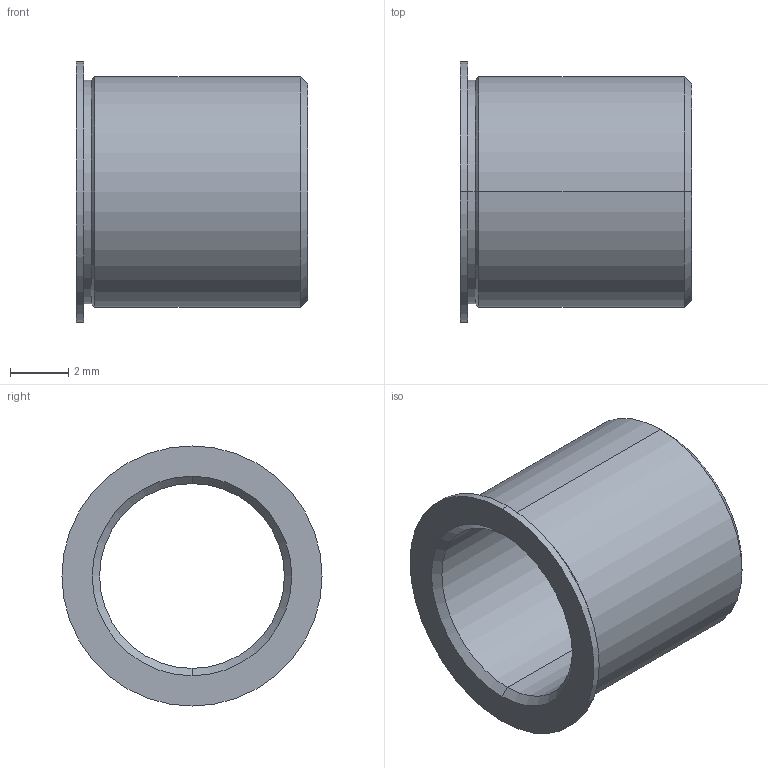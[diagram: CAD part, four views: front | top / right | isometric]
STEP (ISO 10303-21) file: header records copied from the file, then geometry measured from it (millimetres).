
FILE_DESCRIPTION (( 'STEP AP214' ), '1' );
FILE_NAME ('TB250-80-313-S.STEP', '2013-08-12T19:29:28', ( 'workpc' ), ( 'Microsoft' ), 'SwSTEP 2.0', 'SolidWorks 2013', '' );
FILE_SCHEMA (( 'AUTOMOTIVE_DESIGN' ));
Length unit declared in the file: inch
Products named in the file (1): TB250-80-313-S
Bounding box: 7.95 x 8.94 x 8.94 mm (x, y, z)
Volume: 141.9 mm3; surface area: 414.5 mm2
Topology: 1 solids, 1 shells, 19 faces, 38 edges, 22 vertices
Faces by surface type: cone 8, cylinder 8, plane 3
Entity records: 564 total; most frequent: DIRECTION 100, CARTESIAN_POINT 80, ORIENTED_EDGE 76, AXIS2_PLACEMENT_3D 42, EDGE_CURVE 38, CIRCLE 22, EDGE_LOOP 22, VERTEX_POINT 22
